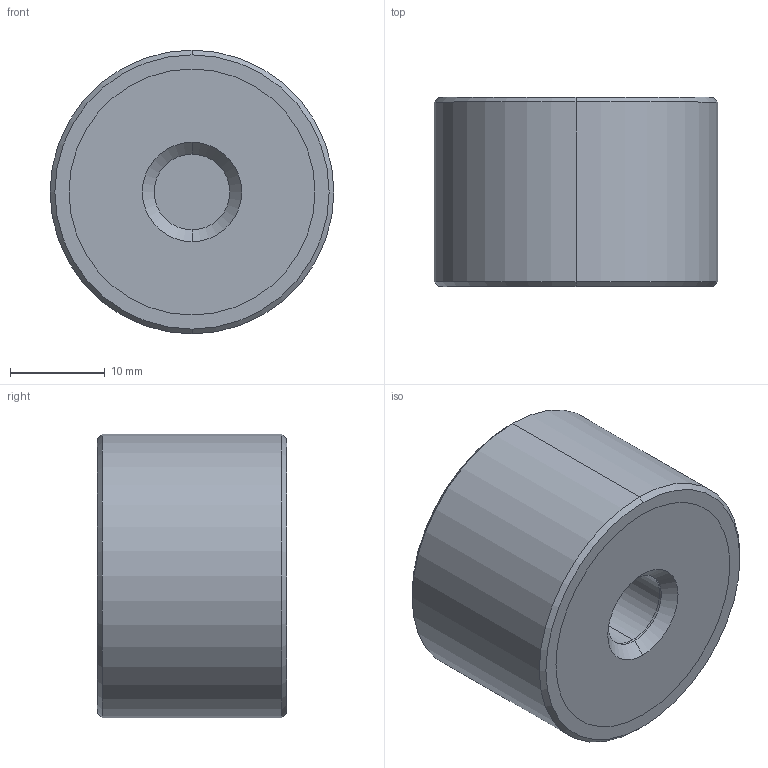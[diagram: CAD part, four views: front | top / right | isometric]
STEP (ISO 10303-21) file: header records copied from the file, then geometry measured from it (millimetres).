
FILE_DESCRIPTION (( 'STEP AP203' ), '1' );
FILE_NAME ('61080.W0301.step', '2018-07-16T20:43:47', ( '' ), ( '' ), 'SwSTEP 2.0', 'SolidWorks 2017', '' );
FILE_SCHEMA (( 'CONFIG_CONTROL_DESIGN' ));
Length unit declared in the file: millimetre
Products named in the file (4): Part3_61080.W0301; Part1_61080.W0301; Part2_61080.W0301; 61080.W0301
Assembly tree (3 placements, depth 2):
  61080.W0301
    Part1_61080.W0301
    Part2_61080.W0301
    Part3_61080.W0301
Bounding box: 30 x 20 x 30 mm (x, y, z)
Volume: 13266.3 mm3; surface area: 6024.9 mm2
Topology: 3 solids, 3 shells, 36 faces, 70 edges, 44 vertices
Faces by surface type: cylinder 18, plane 10, cone 8
Entity records: 1356 total; most frequent: DIRECTION 198, CARTESIAN_POINT 156, ORIENTED_EDGE 140, AXIS2_PLACEMENT_3D 86, EDGE_CURVE 70, CIRCLE 44, VERTEX_POINT 44, EDGE_LOOP 44
